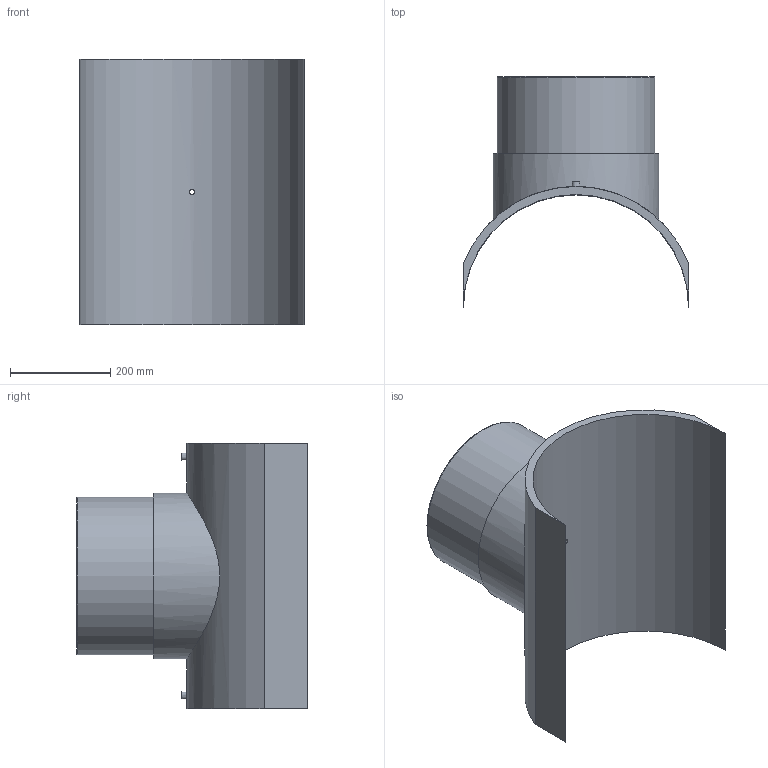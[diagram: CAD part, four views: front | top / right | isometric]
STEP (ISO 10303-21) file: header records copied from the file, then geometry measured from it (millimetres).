
FILE_DESCRIPTION(/* description */ ('PLASSON BRANCH SADDLE 450x315'),/* implementation_level */ '2;1');
FILE_NAME(/* name */ 'C:\Dropbox\KIMPROJECTS-Inventor 2019\99-16-3568-Processing\ElectroFusion Fittings\495803\stp\495803450315T.stp',/* time_stamp */ '2024-04-04T11:51:11+02:00',/* author */ ('KIM'),/* organization */ (''),/* preprocessor_version */ 'ST-DEVELOPER v17.2',/* originating_system */ 'Autodesk Inventor 2019',/* authorisation */ '');
FILE_SCHEMA (('AUTOMOTIVE_DESIGN { 1 0 10303 214 3 1 1 }'));
Length unit declared in the file: millimetre
Products named in the file (1): 495803450315T
Bounding box: 450 x 461 x 530 mm (x, y, z)
Volume: 12814184.9 mm3; surface area: 1240373.6 mm2
Topology: 1 solids, 1 shells, 29 faces, 60 edges, 43 vertices
Faces by surface type: plane 13, cylinder 12, torus 2, cone 2
Full cylindrical faces by diameter (mm): 4 x2, 9.6 x1, 10 x2, 16 x1, 252 x1, 315 x1, 330.75 x1
Entity records: 1102 total; most frequent: CARTESIAN_POINT 416, DIRECTION 139, ORIENTED_EDGE 120, EDGE_CURVE 60, AXIS2_PLACEMENT_3D 60, VERTEX_POINT 43, EDGE_LOOP 41, CIRCLE 30
